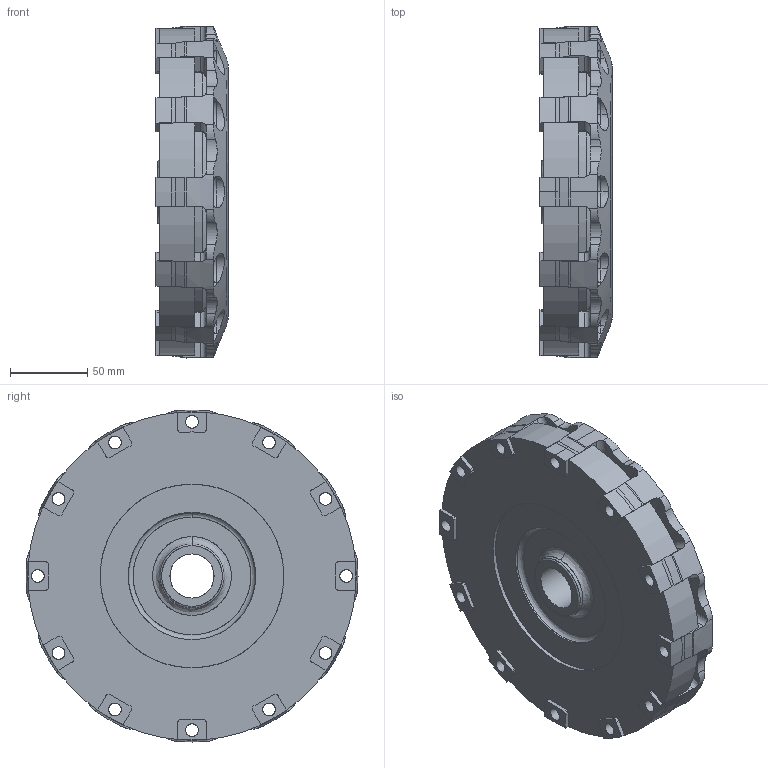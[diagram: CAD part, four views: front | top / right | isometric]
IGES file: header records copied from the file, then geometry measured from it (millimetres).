
Start section: C
Global section: file name: 6572USG-S.igs; native system: By Siemens PLM Incorporated; preprocessor: XPlus GENERIC/IGES 17.0.49; author: Author; organization: Title; date: 20150715.101246; units: millimetre
Bounding box: 47.08 x 215.39 x 215.39 mm (x, y, z)
Surface area: 151183.7 mm2 (no closed solid volume)
Topology: 0 solids, 0 shells, 829 faces, 4894 edges, 4894 vertices
Faces by surface type: bspline 829
